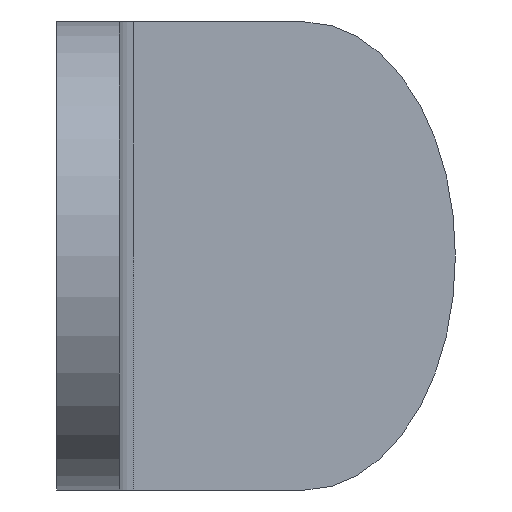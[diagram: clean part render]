
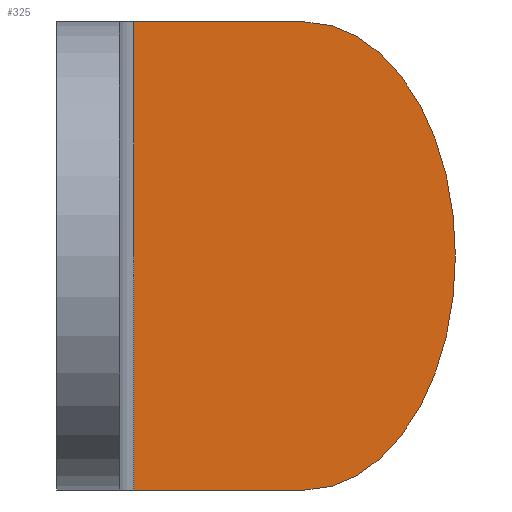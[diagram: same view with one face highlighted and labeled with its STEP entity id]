
A CAD part, front view. The second image highlights one B-rep face of the part: STEP entity #325.
In plain terms, the highlighted planar face has unit normal (0.766, -0.643, 0).
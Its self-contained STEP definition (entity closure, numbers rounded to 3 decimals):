
#9=DIRECTION('',(0.643,0.766,0.));
#10=VECTOR('',#9,17.088);
#11=CARTESIAN_POINT('',(4.936,-0.341,-15.));
#12=LINE('',#11,#10);
#80=DIRECTION('',(0.,0.,1.));
#81=VECTOR('',#80,30.);
#82=CARTESIAN_POINT('',(4.936,-0.341,-15.));
#83=LINE('',#82,#81);
#84=CARTESIAN_POINT('',(15.92,12.75,0.));
#85=DIRECTION('',(0.766,-0.643,0.));
#86=DIRECTION('',(0.,0.,-1.));
#87=AXIS2_PLACEMENT_3D('',#84,#85,#86);
#125=DIRECTION('',(0.643,0.766,0.));
#126=VECTOR('',#125,17.088);
#127=CARTESIAN_POINT('',(4.936,-0.341,15.));
#128=LINE('',#127,#126);
#137=CARTESIAN_POINT('',(15.92,12.75,-15.));
#138=VERTEX_POINT('',#137);
#139=CARTESIAN_POINT('',(15.92,12.75,15.));
#140=VERTEX_POINT('',#139);
#141=CARTESIAN_POINT('',(4.936,-0.341,-15.));
#142=CARTESIAN_POINT('',(4.936,-0.341,15.));
#143=VERTEX_POINT('',#141);
#144=VERTEX_POINT('',#142);
#312=CARTESIAN_POINT('',(4.,-1.456,-15.));
#313=DIRECTION('',(0.766,-0.643,0.));
#314=DIRECTION('',(0.643,0.766,0.));
#315=AXIS2_PLACEMENT_3D('',#312,#313,#314);
#316=PLANE('',#315);
#318=ORIENTED_EDGE('',*,*,#317,.T.);
#320=ORIENTED_EDGE('',*,*,#319,.T.);
#321=ORIENTED_EDGE('',*,*,#305,.F.);
#322=ORIENTED_EDGE('',*,*,#184,.F.);
#323=EDGE_LOOP('',(#318,#320,#321,#322));
#324=FACE_OUTER_BOUND('',#323,.F.);
#325=ADVANCED_FACE('',(#324),#316,.T.);
#88=CIRCLE('',#87,15.);
#184=EDGE_CURVE('',#143,#138,#12,.T.);
#305=EDGE_CURVE('',#138,#140,#88,.T.);
#317=EDGE_CURVE('',#143,#144,#83,.T.);
#319=EDGE_CURVE('',#144,#140,#128,.T.);
